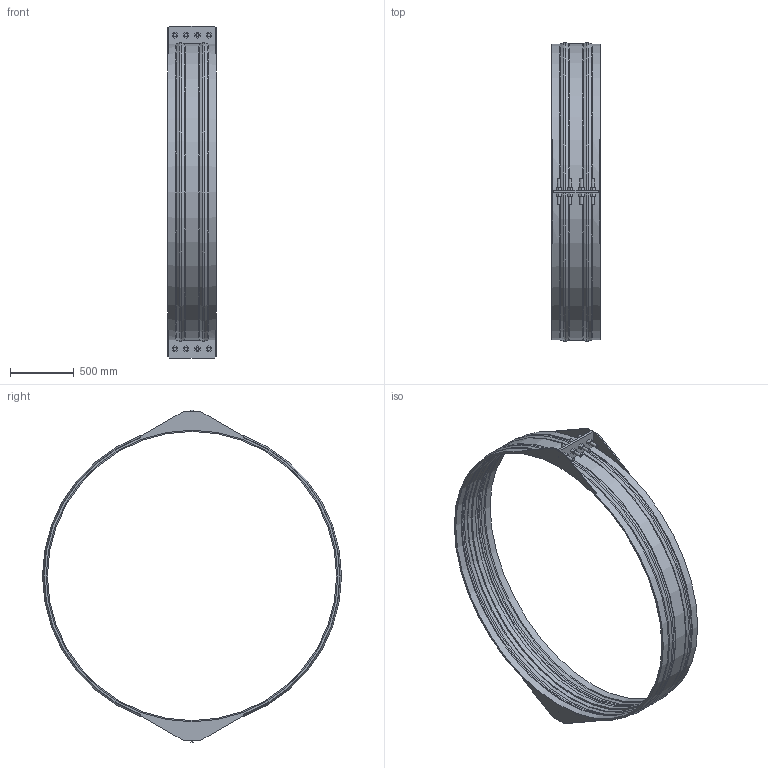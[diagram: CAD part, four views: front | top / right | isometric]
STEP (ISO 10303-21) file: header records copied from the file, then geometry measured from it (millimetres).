
FILE_DESCRIPTION(/* description */ ('VIC RESTRAINED COUPLING STYLE 233 (FLEX) (BRD)','CAx-IF Rec.Pracs.---Representation and Presentation of Product Manufacturing Information (PMI)---4.0---2014-10-13'),/* implementation_level */ '2;1');
FILE_NAME(/* name */ 'C:\Users\Vjadhav\Desktop\CAD for Inventor\Test for STEP\Vivek\Adsk_Inventor_Bolted Sleeve_iParts\STEP\Victaulic_VBSP_Coupling Flexible Restrained_Style 233 (BRD)\Victaulic_VBSP_Coupling Flexible Restrained_Style 233 (BRD)_150psi_90 (2250).stp',/* time_stamp */ '2020-09-24T12:31:36+05:00',/* author */ ('Vjadhav'),/* organization */ ('Victaulic'),/* preprocessor_version */ 'ST-DEVELOPER v17.2',/* originating_system */ 'Autodesk Inventor 2019',/* authorisation */ '');
FILE_SCHEMA (('AP242_MANAGED_MODEL_BASED_3D_ENGINEERING_MIM_LF { 1 0 10303 442 1 1 4 }'));
Length unit declared in the file: inch
Products named in the file (1): Style_233_Type_2_150psi-90.0
Bounding box: 381 x 2344.44 x 2603.5 mm (x, y, z)
Volume: 52359148.6 mm3; surface area: 6874430.3 mm2
Topology: 1 solids, 1 shells, 239 faces, 625 edges, 422 vertices
Faces by surface type: plane 166, cylinder 43, torus 18, cone 12
Full cylindrical faces by diameter (mm): 25.4 x16, 2266.95 x1, 2286 x2, 2292.35 x2
Entity records: 7896 total; most frequent: CARTESIAN_POINT 1496, DIRECTION 1259, ORIENTED_EDGE 1250, EDGE_CURVE 625, LINE 449, VECTOR 449, VERTEX_POINT 422, AXIS2_PLACEMENT_3D 405
